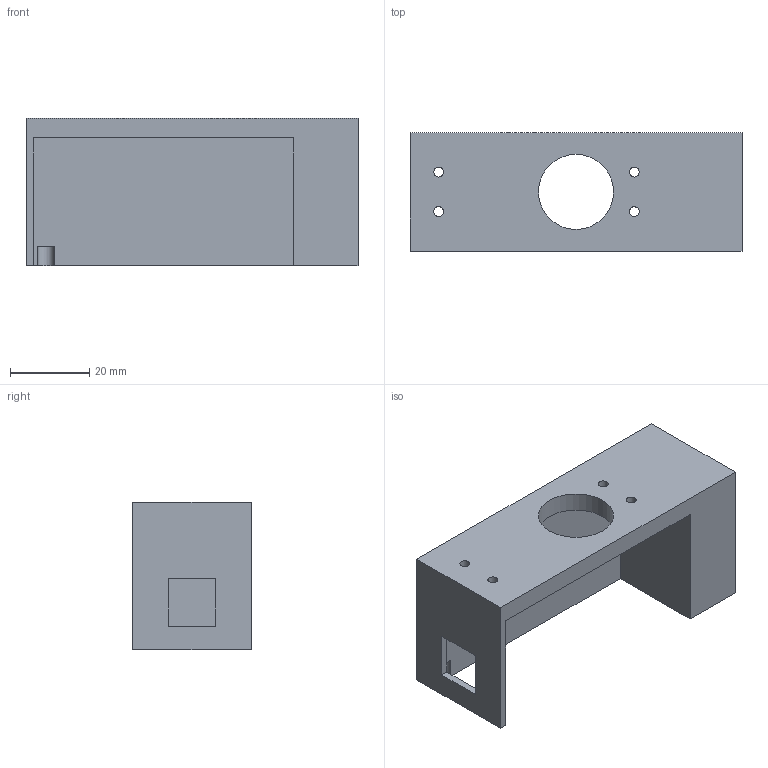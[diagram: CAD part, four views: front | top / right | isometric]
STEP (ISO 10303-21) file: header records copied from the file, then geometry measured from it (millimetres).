
FILE_DESCRIPTION(('Open CASCADE Model'),'2;1');
FILE_NAME('Open CASCADE Shape Model','2026-07-25T17:42:38',('Author'),( 'Open CASCADE'),'Open CASCADE STEP processor 7.9','build123d', 'Unknown');
FILE_SCHEMA(('AUTOMOTIVE_DESIGN { 1 0 10303 214 1 1 1 1 }'));
Length unit declared in the file: millimetre
Products named in the file (1): COMPOUND
Bounding box: 84 x 30 x 37.38 mm (x, y, z)
Volume: 38822.3 mm3; surface area: 14973.8 mm2
Topology: 1 solids, 1 shells, 25 faces, 63 edges, 42 vertices
Faces by surface type: plane 17, cylinder 8
Full cylindrical faces by diameter (mm): 2.5 x4, 4.2 x2, 19 x1
Entity records: 1572 total; most frequent: CARTESIAN_POINT 291, DIRECTION 223, ORIENTED_EDGE 126, PCURVE 126, DEFINITIONAL_REPRESENTATION 126, LINE 123, VECTOR 123, EDGE_CURVE 63
